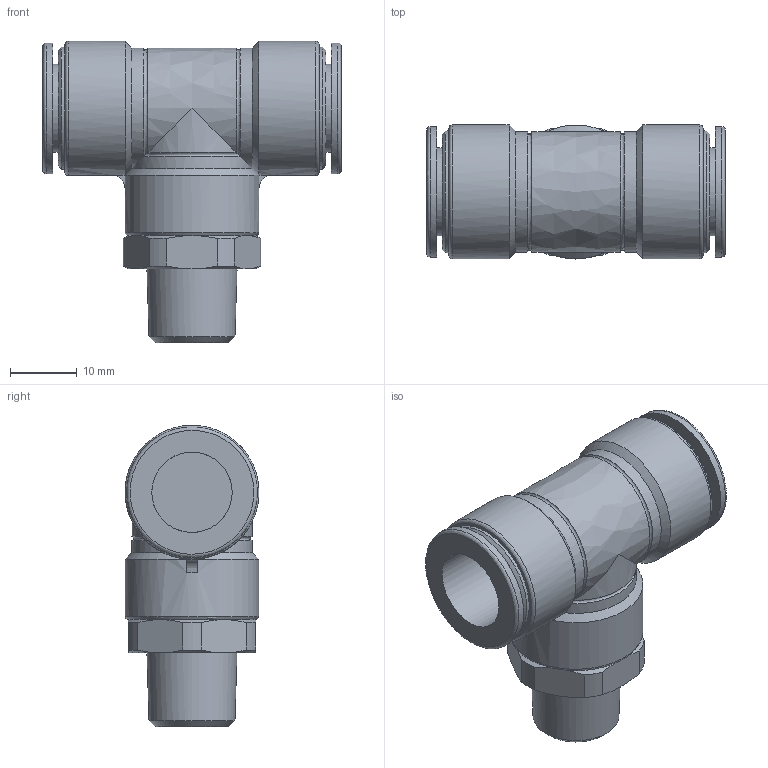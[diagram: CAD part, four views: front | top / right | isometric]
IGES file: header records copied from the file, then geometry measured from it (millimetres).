
Global section: file name: [15] FS12-02MT FS12-02MTW; native system: Autodesk Inventor 2014; preprocessor: unknown; author: kazuhiro.t; date: 20130806.165209; units: millimetre
Bounding box: 44.6 x 20 x 45 mm (x, y, z)
Volume: 15381 mm3; surface area: 6638.9 mm2
Topology: 1 solids, 1 shells, 85 faces, 201 edges, 127 vertices
Faces by surface type: bspline 85
